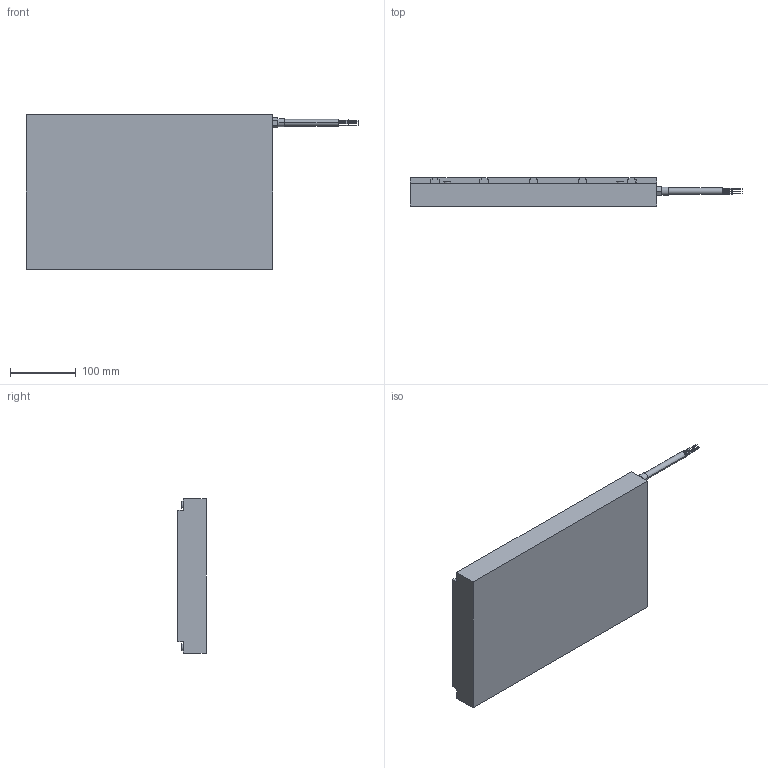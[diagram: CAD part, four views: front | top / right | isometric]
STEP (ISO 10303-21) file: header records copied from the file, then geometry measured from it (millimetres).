
FILE_DESCRIPTION((''),'2;1');
FILE_NAME('IC22_200','2010-03-09T',('brad.winesett'),('Kollmorgen'),'PRO/ENGINEER BY PARAMETRIC TECHNOLOGY CORPORATION, 2006510','PRO/ENGINEER BY PARAMETRIC TECHNOLOGY CORPORATION, 2006510','');
FILE_SCHEMA(('CONFIG_CONTROL_DESIGN'));
Length unit declared in the file: millimetre
Products named in the file (1): IC22_200
Bounding box: 506.2 x 43.3 x 235 mm (x, y, z)
Volume: 3721629 mm3; surface area: 282189 mm2
Topology: 1 solids, 31 shells, 382 faces, 954 edges, 606 vertices
Faces by surface type: cylinder 164, plane 158, cone 60
Entity records: 11063 total; most frequent: DIRECTION 2048, CARTESIAN_POINT 1883, ORIENTED_EDGE 1668, EDGE_CURVE 894, AXIS2_PLACEMENT_3D 771, VERTEX_POINT 606, VECTOR 506, LINE 506
